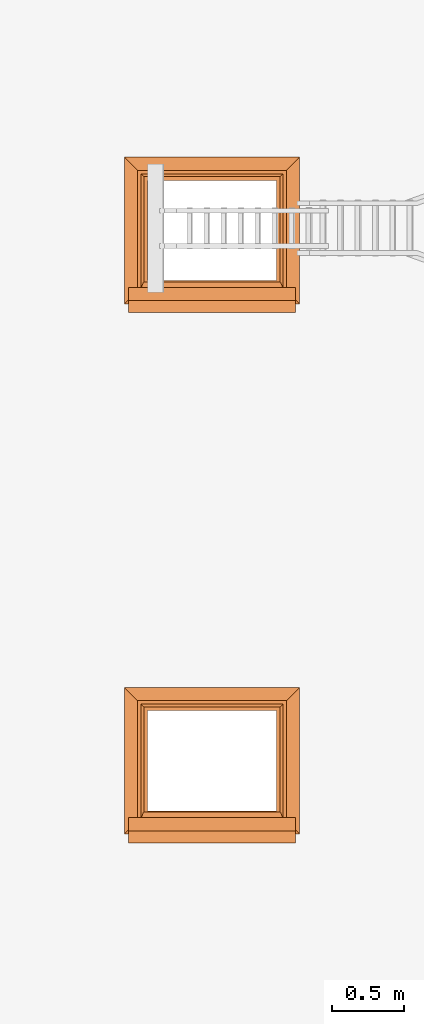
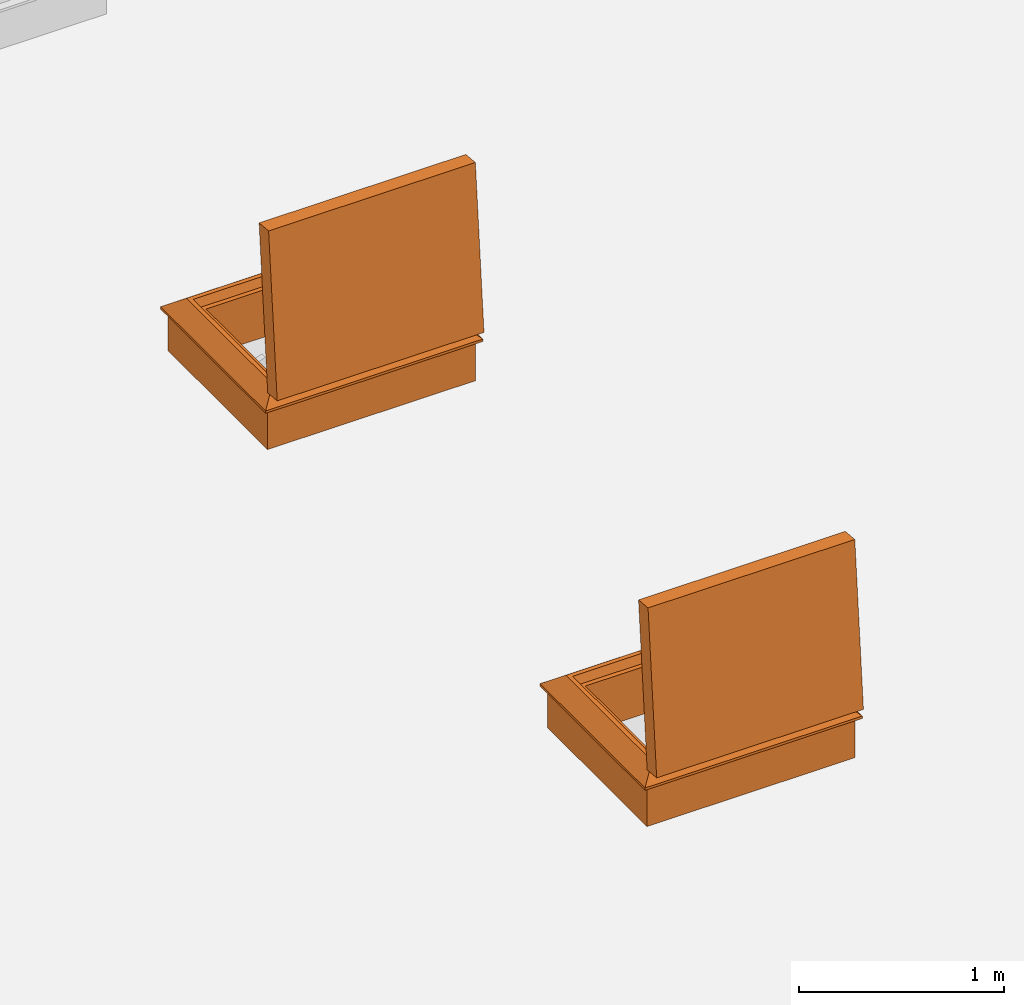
# One storey, part 25 of 28: 2 proxies.
"""IFC2X3 building model written with IfcOpenShell, lengths in millimetres."""

from ifc_helpers import new_model, entity, si_unit, converted_unit, derived_unit, direction, frame, origin, place, context, subcontext, project, spatial, faceted_brep, source, transform, mapped, type_object, type_shapes, element, save


model = new_model("IFC2X3")

# Units and contexts
model_context = context("Model", 3, precision=0.01, world=origin(), true_north=direction((6.12303176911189e-17, 1.0)))
body_context = subcontext(model_context, "Body", "Model", "MODEL_VIEW")
ifc_project = project(units=[si_unit("LENGTHUNIT", "METRE", prefix="MILLI"), si_unit("AREAUNIT", "SQUARE_METRE"), si_unit("VOLUMEUNIT", "CUBIC_METRE"), converted_unit("PLANEANGLEUNIT", "DEGREE", entity("IfcRatioMeasure", 0.0174532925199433), si_unit("PLANEANGLEUNIT", "RADIAN"), dimensions=[0, 0, 0, 0, 0, 0, 0]), si_unit("MASSUNIT", "GRAM", prefix="KILO"), derived_unit("MASSDENSITYUNIT", [(si_unit("MASSUNIT", "GRAM", prefix="KILO"), 1), (si_unit("LENGTHUNIT", "METRE"), -3)]), si_unit("TIMEUNIT", "SECOND"), si_unit("FREQUENCYUNIT", "HERTZ"), si_unit("THERMODYNAMICTEMPERATUREUNIT", "DEGREE_CELSIUS"), derived_unit("THERMALTRANSMITTANCEUNIT", [(si_unit("MASSUNIT", "GRAM", prefix="KILO"), 1), (si_unit("THERMODYNAMICTEMPERATUREUNIT", "KELVIN"), -1), (si_unit("TIMEUNIT", "SECOND"), -3)]), derived_unit("VOLUMETRICFLOWRATEUNIT", [(si_unit("LENGTHUNIT", "METRE"), 3), (si_unit("TIMEUNIT", "SECOND"), -1)]), si_unit("ELECTRICCURRENTUNIT", "AMPERE"), si_unit("ELECTRICVOLTAGEUNIT", "VOLT"), si_unit("POWERUNIT", "WATT"), si_unit("FORCEUNIT", "NEWTON", prefix="KILO"), si_unit("ILLUMINANCEUNIT", "LUX"), si_unit("LUMINOUSFLUXUNIT", "LUMEN"), si_unit("LUMINOUSINTENSITYUNIT", "CANDELA"), derived_unit("USERDEFINED", [(si_unit("MASSUNIT", "GRAM", prefix="KILO"), -1), (si_unit("LENGTHUNIT", "METRE"), -2), (si_unit("TIMEUNIT", "SECOND"), 3), (si_unit("LUMINOUSFLUXUNIT", "LUMEN"), 1)]), derived_unit("LINEARVELOCITYUNIT", [(si_unit("LENGTHUNIT", "METRE"), 1), (si_unit("TIMEUNIT", "SECOND"), -1)]), si_unit("PRESSUREUNIT", "PASCAL"), derived_unit("USERDEFINED", [(si_unit("LENGTHUNIT", "METRE"), -2), (si_unit("MASSUNIT", "GRAM", prefix="KILO"), 1), (si_unit("TIMEUNIT", "SECOND"), -2)])], contexts=[model_context])

# Site, building, storey
site_placement = place(None, origin())
site = spatial("IfcSite", under=ifc_project, at=site_placement, Name="Default", CompositionType="ELEMENT")
building_placement = place(site_placement, origin())
building = spatial("IfcBuilding", under=site, at=building_placement, CompositionType="ELEMENT")
storey_placement = place(building_placement, frame((0.0, 0.0, 4000.0)))
storey = spatial("IfcBuildingStorey", under=building, at=storey_placement, Name="Level 2", CompositionType="ELEMENT", Elevation=4000.0)

# Proxies
building_element_proxy_type_1 = type_object("IfcBuildingElementProxyType", Name="900 x 700 2part Stair", PredefinedType="NOTDEFINED")
shared_shape_1 = source(origin(), body_context, "Body", "Brep", [
    faceted_brep([(-1031.26976233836, -354.358761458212, 273.75531442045), (-1031.26976233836, -365.864908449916, 288.137998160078), (-1031.26976233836, -367.20140657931, 290.920914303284), (-1031.26976233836, -367.181926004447, 294.008060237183), (-1031.26976233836, -349.922619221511, 336.726343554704), (-1031.26976233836, -349.533801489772, 337.426363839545), (-1031.26976233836, -348.986173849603, 338.010582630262), (-1031.26976233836, -348.312728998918, 338.443802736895), (-1031.26976233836, -347.554039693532, 338.699924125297), (-1031.26976233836, -346.75581437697, 338.763516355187), (-1031.26976233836, -345.966143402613, 338.630748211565), (-1031.26976233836, -345.232601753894, 338.309618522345), (-1031.26976233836, -344.599382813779, 337.819474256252), (-1031.26976233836, -344.104635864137, 337.189844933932), (-1031.26976233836, -343.778167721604, 336.458663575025), (-1031.26976233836, -343.639646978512, 335.66998136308), (-1031.26976233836, -343.697419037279, 334.87131371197), (-1031.26976233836, -343.948003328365, 334.110777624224), (-1031.26976233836, -344.376303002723, 333.434192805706), (-1031.26976233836, -344.364435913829, 329.878928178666), (-1031.26976233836, -341.783092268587, 327.434196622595), (-1031.26976233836, -304.474443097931, 313.662769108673), (-997.506920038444, -354.358761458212, 273.75531442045), (-997.506920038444, -365.864908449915, 288.137998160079), (-997.506920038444, -367.20140657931, 290.920914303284), (-997.506920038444, -367.181926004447, 294.008060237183), (-997.506920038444, -349.922619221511, 336.726343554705), (-997.506920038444, -349.533801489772, 337.426363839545), (-997.506920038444, -348.986173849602, 338.010582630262), (-997.506920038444, -347.554039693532, 338.699924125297), (-997.506920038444, -346.75581437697, 338.763516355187), (-997.506920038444, -348.312728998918, 338.443802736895), (-997.506920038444, -345.966143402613, 338.630748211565), (-997.506920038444, -345.232601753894, 338.309618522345), (-997.506920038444, -344.104635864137, 337.189844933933), (-997.506920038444, -344.599382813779, 337.819474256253), (-997.506920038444, -343.778167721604, 336.458663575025), (-997.506920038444, -343.697419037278, 334.87131371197), (-997.506920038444, -343.948003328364, 334.110777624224), (-997.506920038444, -343.639646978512, 335.669981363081), (-997.506920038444, -344.376303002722, 333.434192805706), (-997.506920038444, -344.36443591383, 329.878928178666), (-997.506920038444, -341.783092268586, 327.434196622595), (-997.506920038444, -304.474443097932, 313.662769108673)], [[[0, 1, 2, 3, 4, 5, 6, 7, 8, 9, 10, 11, 12, 13, 14, 15, 16, 17, 18, 19, 20, 21]], [[1, 0, 22, 23]], [[1, 23, 24, 2]], [[24, 25, 3, 2]], [[4, 3, 25, 26]], [[27, 5, 4, 26]], [[28, 6, 5, 27]], [[29, 30, 9, 8]], [[8, 7, 31, 29]], [[31, 7, 6, 28]], [[32, 10, 9, 30]], [[11, 10, 32, 33]], [[34, 13, 12, 35]], [[36, 14, 13, 34]], [[37, 38, 17, 16]], [[16, 15, 39, 37]], [[39, 15, 14, 36]], [[40, 18, 17, 38]], [[12, 11, 33, 35]], [[40, 41, 19, 18]], [[42, 20, 19, 41]], [[21, 20, 42, 43]], [[0, 21, 43, 22]], [[22, 43, 42, 41, 40, 38, 37, 39, 36, 34, 35, 33, 32, 30, 29, 31, 28, 27, 26, 25, 24, 23]]]),
    faceted_brep([(-162.921907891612, -354.358761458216, 273.75531442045), (-162.921907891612, -304.474443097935, 313.662769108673), (-131.269762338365, -304.474443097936, 313.662769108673), (-131.269762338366, -354.358761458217, 273.75531442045), (-162.921907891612, -341.783092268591, 327.434196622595), (-131.269762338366, -341.783092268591, 327.434196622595), (-131.269762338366, -344.376303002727, 333.434192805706), (-131.269762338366, -344.364435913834, 329.878928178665), (-162.921907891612, -344.364435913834, 329.878928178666), (-162.921907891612, -344.376303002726, 333.434192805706), (-131.269762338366, -349.533801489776, 337.426363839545), (-162.921907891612, -349.533801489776, 337.426363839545), (-162.921907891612, -349.922619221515, 336.726343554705), (-131.269762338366, -349.922619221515, 336.726343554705), (-131.269762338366, -348.986173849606, 338.010582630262), (-162.921907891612, -348.986173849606, 338.010582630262), (-162.921907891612, -347.554039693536, 338.699924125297), (-162.921907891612, -348.312728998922, 338.443802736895), (-131.269762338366, -348.312728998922, 338.443802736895), (-131.269762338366, -347.554039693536, 338.699924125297), (-131.269762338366, -346.755814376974, 338.763516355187), (-162.921907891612, -346.755814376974, 338.763516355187), (-131.269762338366, -345.966143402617, 338.630748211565), (-162.921907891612, -345.966143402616, 338.630748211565), (-131.269762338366, -345.232601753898, 338.309618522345), (-162.921907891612, -345.232601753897, 338.309618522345), (-131.269762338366, -344.599382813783, 337.819474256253), (-162.921907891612, -344.599382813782, 337.819474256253), (-131.269762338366, -344.104635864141, 337.189844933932), (-162.921907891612, -344.104635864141, 337.189844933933), (-162.921907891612, -343.639646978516, 335.669981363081), (-162.921907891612, -343.778167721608, 336.458663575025), (-131.269762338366, -343.778167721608, 336.458663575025), (-131.269762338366, -343.639646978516, 335.66998136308), (-131.269762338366, -343.697419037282, 334.87131371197), (-162.921907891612, -343.697419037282, 334.87131371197), (-131.269762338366, -343.948003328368, 334.110777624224), (-162.921907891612, -343.948003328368, 334.110777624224), (-162.921907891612, -367.181926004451, 294.008060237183), (-131.269762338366, -367.181926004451, 294.008060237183), (-162.921907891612, -365.864908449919, 288.137998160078), (-131.269762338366, -365.86490844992, 288.137998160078), (-131.269762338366, -367.201406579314, 290.920914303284), (-162.921907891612, -367.201406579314, 290.920914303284)], [[[0, 1, 2, 3]], [[1, 4, 5, 2]], [[6, 7, 8, 9]], [[5, 4, 8, 7]], [[10, 11, 12, 13]], [[14, 15, 11, 10]], [[16, 17, 18, 19]], [[19, 20, 21, 16]], [[14, 18, 17, 15]], [[22, 23, 21, 20]], [[23, 22, 24, 25]], [[26, 27, 25, 24]], [[28, 29, 27, 26]], [[30, 31, 32, 33]], [[33, 34, 35, 30]], [[28, 32, 31, 29]], [[36, 37, 35, 34]], [[9, 37, 36, 6]], [[12, 38, 39, 13]], [[40, 41, 42, 43]], [[42, 39, 38, 43]], [[40, 0, 3, 41]], [[19, 18, 14, 10, 13, 39, 42, 41, 3, 2, 5, 7, 6, 36, 34, 33, 32, 28, 26, 24, 22, 20]], [[35, 37, 9, 8, 4, 1, 0, 40, 43, 38, 12, 11, 15, 17, 16, 21, 23, 25, 27, 29, 31, 30]]]),
    faceted_brep([(-61.2697623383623, 553.447095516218, 328.0), (30.7302376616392, 645.447095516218, 254.400000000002), (-1193.26976233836, 645.447095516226, 254.400000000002), (-1101.26976233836, 553.447095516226, 328.0), (-105.269762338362, 509.447095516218, 282.0), (-85.7439207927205, 528.97293706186, 328.0), (-1076.795603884, 528.972937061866, 328.0), (-1057.26976233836, 509.447095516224, 282.0), (-131.269762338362, 483.44709551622, 0.0), (-131.269762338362, 483.44709551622, 282.0), (-1031.26976233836, 483.447095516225, 282.0), (-1031.26976233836, 483.447095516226, 0.0), (4.73023766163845, 619.447095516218, 240.0), (4.73023766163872, 619.447095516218, 0.0), (-1167.26976233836, 619.447095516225, 0.0), (-1167.26976233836, 619.447095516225, 240.0), (30.7302376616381, 645.447095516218, 240.0), (-1193.26976233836, 645.447095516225, 240.0), (-1193.26976233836, -378.552904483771, 254.400000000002), (-1101.26976233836, -286.55290448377, 328.0), (-1076.795603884, -262.078746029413, 328.0), (-1057.26976233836, -242.552904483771, 282.0), (-1031.26976233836, -216.552904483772, 282.0), (-1031.26976233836, -216.552904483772, 0.0), (-1167.26976233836, -352.55290448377, 0.0), (-1167.26976233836, -352.55290448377, 240.0), (-1193.26976233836, -378.552904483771, 240.0), (30.7302376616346, -378.552904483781, 254.400000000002), (-61.2697623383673, -286.552904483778, 328.0), (-85.7439207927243, -262.07874602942, 328.0), (-105.269762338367, -242.552904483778, 282.0), (-131.269762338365, -216.552904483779, 282.0), (-131.269762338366, -216.55290448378, 0.0), (4.73023766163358, -352.552904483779, 0.0), (4.73023766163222, -352.552904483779, 240.0), (30.7302376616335, -378.55290448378, 240.0)], [[[0, 1, 2, 3]], [[4, 5, 6, 7]], [[8, 9, 10, 11]], [[12, 13, 14, 15]], [[1, 16, 17, 2]], [[3, 2, 18, 19]], [[7, 6, 20, 21]], [[11, 10, 22, 23]], [[15, 14, 24, 25]], [[2, 17, 26, 18]], [[19, 18, 27, 28]], [[21, 20, 29, 30]], [[23, 22, 31, 32]], [[25, 24, 33, 34]], [[18, 26, 35, 27]], [[28, 27, 1, 0]], [[3, 19, 28, 0], [5, 29, 20, 6]], [[30, 29, 5, 4]], [[7, 21, 30, 4], [9, 31, 22, 10]], [[32, 31, 9, 8]], [[11, 23, 32, 8], [13, 33, 24, 14]], [[34, 33, 13, 12]], [[15, 25, 34, 12], [16, 35, 26, 17]], [[27, 35, 16, 1]]], outer=[[True], [True], [True], [True], [True], [True], [True], [True], [True], [True], [True], [True], [True], [True], [True], [True], [True, False], [True], [True, False], [True], [False, True], [True], [False, True], [True]]),
    faceted_brep([(-1034.26693391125, -367.286388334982, 1173.32805698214), (-1034.26693391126, -428.81834271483, 470.014600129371), (-128.266933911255, -428.81834271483, 470.014600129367), (-128.266933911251, -367.286388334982, 1173.32805698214), (-1034.26693391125, -228.416847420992, 1161.17854644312), (-128.266933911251, -228.416847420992, 1161.17854644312), (-128.266933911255, -289.94880180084, 457.865089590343), (-1034.26693391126, -289.94880180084, 457.865089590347)], [[[0, 1, 2, 3]], [[4, 5, 6, 7]], [[1, 0, 4, 7]], [[2, 1, 7, 6]], [[3, 2, 6, 5]], [[0, 3, 5, 4]]]),
    faceted_brep([(-128.266933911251, -228.416847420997, 1161.17854644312), (-128.266933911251, -367.286388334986, 1173.32805698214), (-1034.26693391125, -367.286388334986, 1173.32805698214), (-1034.26693391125, -228.416847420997, 1161.17854644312), (-85.2669339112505, -270.892584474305, 1208.05894492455), (-102.86693391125, -226.203091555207, 1186.48189177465), (-1059.66693391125, -226.203091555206, 1186.48189177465), (-1077.26693391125, -270.892584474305, 1208.05894492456), (0.733066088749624, -356.043297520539, 1301.83717303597), (0.733066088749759, -263.397190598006, 1293.73168896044), (-1163.26693391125, -263.397190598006, 1293.73168896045), (-1163.26693391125, -356.043297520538, 1301.83717303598), (-1034.26693391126, -428.818342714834, 470.014600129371), (-1034.26693391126, -289.948801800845, 457.865089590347), (-1059.66693391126, -292.162557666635, 432.561744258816), (-1077.26693391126, -339.919932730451, 419.072744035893), (-1163.26693391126, -347.41532660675, 333.400000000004), (-1163.26693391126, -440.061433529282, 341.505484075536), (-128.266933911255, -428.818342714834, 470.014600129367), (-128.266933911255, -289.948801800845, 457.865089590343), (-102.866933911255, -292.162557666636, 432.561744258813), (-85.2669339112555, -339.919932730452, 419.072744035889), (0.733066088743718, -347.41532660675, 333.399999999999), (0.733066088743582, -440.061433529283, 341.505484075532)], [[[0, 1, 2, 3]], [[4, 5, 6, 7]], [[8, 9, 10, 11]], [[3, 2, 12, 13]], [[7, 6, 14, 15]], [[11, 10, 16, 17]], [[13, 12, 18, 19]], [[15, 14, 20, 21]], [[17, 16, 22, 23]], [[19, 18, 1, 0]], [[3, 13, 19, 0], [5, 20, 14, 6]], [[21, 20, 5, 4]], [[7, 15, 21, 4], [9, 22, 16, 10]], [[23, 22, 9, 8]], [[1, 18, 12, 2], [11, 17, 23, 8]]], outer=[[True], [True], [True], [True], [True], [True], [True], [True], [True], [True], [False, True], [True], [False, True], [True], [False, True]]),
])
type_shapes(building_element_proxy_type_1, [shared_shape_1])
proxy_1_placement = place(storey_placement, frame((13947.8893775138, 5640.33582063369, 400.0)))
element("IfcBuildingElementProxy", 1, at=proxy_1_placement, inside=storey, type_object=building_element_proxy_type_1, Name="1_Topaccess_dakluik_900x700_Staka:900 x 700 2part Stair", ObjectType="900 x 700 2part Stair", context=body_context, shape_type="MappedRepresentation", body=[
    mapped(shared_shape_1, transform((0.0, 0.0, 0.0), scale=1.0)),
])
building_element_proxy_type_2 = type_object("IfcBuildingElementProxyType", Name="900 x 700", PredefinedType="NOTDEFINED")
shared_shape_2 = source(origin(), body_context, "Body", "Brep", [
    faceted_brep([(-1031.26976233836, -354.358761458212, 273.75531442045), (-1031.26976233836, -365.864908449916, 288.137998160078), (-1031.26976233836, -367.20140657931, 290.920914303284), (-1031.26976233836, -367.181926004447, 294.008060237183), (-1031.26976233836, -349.922619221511, 336.726343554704), (-1031.26976233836, -349.533801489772, 337.426363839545), (-1031.26976233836, -348.986173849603, 338.010582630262), (-1031.26976233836, -348.312728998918, 338.443802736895), (-1031.26976233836, -347.554039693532, 338.699924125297), (-1031.26976233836, -346.75581437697, 338.763516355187), (-1031.26976233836, -345.966143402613, 338.630748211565), (-1031.26976233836, -345.232601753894, 338.309618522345), (-1031.26976233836, -344.599382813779, 337.819474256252), (-1031.26976233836, -344.104635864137, 337.189844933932), (-1031.26976233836, -343.778167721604, 336.458663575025), (-1031.26976233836, -343.639646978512, 335.66998136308), (-1031.26976233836, -343.697419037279, 334.87131371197), (-1031.26976233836, -343.948003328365, 334.110777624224), (-1031.26976233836, -344.376303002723, 333.434192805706), (-1031.26976233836, -344.364435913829, 329.878928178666), (-1031.26976233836, -341.783092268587, 327.434196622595), (-1031.26976233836, -304.474443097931, 313.662769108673), (-997.506920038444, -354.358761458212, 273.75531442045), (-997.506920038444, -365.864908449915, 288.137998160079), (-997.506920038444, -367.20140657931, 290.920914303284), (-997.506920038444, -367.181926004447, 294.008060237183), (-997.506920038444, -349.922619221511, 336.726343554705), (-997.506920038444, -349.533801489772, 337.426363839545), (-997.506920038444, -348.986173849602, 338.010582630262), (-997.506920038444, -347.554039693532, 338.699924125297), (-997.506920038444, -346.75581437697, 338.763516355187), (-997.506920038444, -348.312728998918, 338.443802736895), (-997.506920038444, -345.966143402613, 338.630748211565), (-997.506920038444, -345.232601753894, 338.309618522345), (-997.506920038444, -344.104635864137, 337.189844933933), (-997.506920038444, -344.599382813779, 337.819474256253), (-997.506920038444, -343.778167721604, 336.458663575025), (-997.506920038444, -343.697419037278, 334.87131371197), (-997.506920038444, -343.948003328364, 334.110777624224), (-997.506920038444, -343.639646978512, 335.669981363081), (-997.506920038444, -344.376303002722, 333.434192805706), (-997.506920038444, -344.36443591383, 329.878928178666), (-997.506920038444, -341.783092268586, 327.434196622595), (-997.506920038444, -304.474443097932, 313.662769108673)], [[[0, 1, 2, 3, 4, 5, 6, 7, 8, 9, 10, 11, 12, 13, 14, 15, 16, 17, 18, 19, 20, 21]], [[1, 0, 22, 23]], [[1, 23, 24, 2]], [[24, 25, 3, 2]], [[4, 3, 25, 26]], [[27, 5, 4, 26]], [[28, 6, 5, 27]], [[29, 30, 9, 8]], [[8, 7, 31, 29]], [[31, 7, 6, 28]], [[32, 10, 9, 30]], [[11, 10, 32, 33]], [[34, 13, 12, 35]], [[36, 14, 13, 34]], [[37, 38, 17, 16]], [[16, 15, 39, 37]], [[39, 15, 14, 36]], [[40, 18, 17, 38]], [[12, 11, 33, 35]], [[40, 41, 19, 18]], [[42, 20, 19, 41]], [[21, 20, 42, 43]], [[0, 21, 43, 22]], [[22, 43, 42, 41, 40, 38, 37, 39, 36, 34, 35, 33, 32, 30, 29, 31, 28, 27, 26, 25, 24, 23]]]),
    faceted_brep([(-162.921907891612, -365.864908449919, 288.137998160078), (-162.921907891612, -354.358761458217, 273.75531442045), (-131.269762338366, -354.358761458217, 273.75531442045), (-131.269762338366, -365.864908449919, 288.137998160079), (-131.269762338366, -367.201406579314, 290.920914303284), (-162.921907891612, -367.201406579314, 290.920914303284), (-131.269762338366, -367.181926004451, 294.008060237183), (-162.921907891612, -367.181926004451, 294.008060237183), (-162.921907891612, -349.922619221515, 336.726343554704), (-131.269762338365, -349.922619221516, 336.726343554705), (-131.269762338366, -349.533801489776, 337.426363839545), (-162.921907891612, -349.533801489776, 337.426363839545), (-131.269762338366, -348.986173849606, 338.010582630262), (-162.921907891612, -348.986173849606, 338.010582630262), (-162.921907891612, -347.554039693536, 338.699924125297), (-162.921907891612, -348.312728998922, 338.443802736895), (-131.269762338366, -348.312728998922, 338.443802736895), (-131.269762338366, -347.554039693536, 338.699924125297), (-131.269762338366, -346.755814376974, 338.763516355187), (-162.921907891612, -346.755814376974, 338.763516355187), (-131.269762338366, -345.966143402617, 338.630748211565), (-162.921907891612, -345.966143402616, 338.630748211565), (-131.269762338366, -345.232601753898, 338.309618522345), (-162.921907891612, -345.232601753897, 338.309618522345), (-131.269762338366, -344.599382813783, 337.819474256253), (-162.921907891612, -344.599382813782, 337.819474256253), (-131.269762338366, -344.104635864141, 337.189844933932), (-162.921907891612, -344.104635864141, 337.189844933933), (-162.921907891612, -343.639646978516, 335.669981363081), (-162.921907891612, -343.778167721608, 336.458663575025), (-131.269762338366, -343.778167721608, 336.458663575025), (-131.269762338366, -343.639646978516, 335.66998136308), (-131.269762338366, -343.697419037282, 334.87131371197), (-162.921907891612, -343.697419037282, 334.87131371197), (-131.269762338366, -343.948003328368, 334.110777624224), (-162.921907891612, -343.948003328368, 334.110777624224), (-162.921907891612, -344.376303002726, 333.434192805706), (-131.269762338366, -344.376303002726, 333.434192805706), (-131.269762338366, -344.364435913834, 329.878928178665), (-162.921907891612, -344.364435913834, 329.878928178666), (-131.269762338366, -341.78309226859, 327.434196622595), (-162.921907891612, -341.78309226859, 327.434196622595), (-162.921907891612, -304.474443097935, 313.662769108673), (-131.269762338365, -304.474443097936, 313.662769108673)], [[[0, 1, 2, 3]], [[0, 3, 4, 5]], [[4, 6, 7, 5]], [[8, 7, 6, 9]], [[10, 11, 8, 9]], [[12, 13, 11, 10]], [[14, 15, 16, 17]], [[17, 18, 19, 14]], [[12, 16, 15, 13]], [[20, 21, 19, 18]], [[21, 20, 22, 23]], [[24, 25, 23, 22]], [[26, 27, 25, 24]], [[28, 29, 30, 31]], [[31, 32, 33, 28]], [[26, 30, 29, 27]], [[34, 35, 33, 32]], [[36, 35, 34, 37]], [[37, 38, 39, 36]], [[40, 41, 39, 38]], [[42, 41, 40, 43]], [[1, 42, 43, 2]], [[17, 16, 12, 10, 9, 6, 4, 3, 2, 43, 40, 38, 37, 34, 32, 31, 30, 26, 24, 22, 20, 18]], [[33, 35, 36, 39, 41, 42, 1, 0, 5, 7, 8, 11, 13, 15, 14, 19, 21, 23, 25, 27, 29, 28]]]),
    faceted_brep([(-61.2697623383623, 553.447095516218, 328.0), (30.7302376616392, 645.447095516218, 254.400000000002), (-1193.26976233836, 645.447095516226, 254.400000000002), (-1101.26976233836, 553.447095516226, 328.0), (-105.269762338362, 509.447095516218, 282.0), (-85.7439207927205, 528.97293706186, 328.0), (-1076.795603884, 528.972937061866, 328.0), (-1057.26976233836, 509.447095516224, 282.0), (-131.269762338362, 483.44709551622, 0.0), (-131.269762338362, 483.44709551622, 282.0), (-1031.26976233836, 483.447095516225, 282.0), (-1031.26976233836, 483.447095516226, 0.0), (4.73023766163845, 619.447095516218, 240.0), (4.73023766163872, 619.447095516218, 0.0), (-1167.26976233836, 619.447095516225, 0.0), (-1167.26976233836, 619.447095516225, 240.0), (30.7302376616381, 645.447095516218, 240.0), (-1193.26976233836, 645.447095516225, 240.0), (-1193.26976233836, -378.552904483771, 254.400000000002), (-1101.26976233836, -286.55290448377, 328.0), (-1076.795603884, -262.078746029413, 328.0), (-1057.26976233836, -242.552904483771, 282.0), (-1031.26976233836, -216.552904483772, 282.0), (-1031.26976233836, -216.552904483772, 0.0), (-1167.26976233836, -352.55290448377, 0.0), (-1167.26976233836, -352.55290448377, 240.0), (-1193.26976233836, -378.552904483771, 240.0), (30.7302376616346, -378.552904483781, 254.400000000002), (-61.2697623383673, -286.552904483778, 328.0), (-85.7439207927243, -262.07874602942, 328.0), (-105.269762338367, -242.552904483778, 282.0), (-131.269762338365, -216.552904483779, 282.0), (-131.269762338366, -216.55290448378, 0.0), (4.73023766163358, -352.552904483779, 0.0), (4.73023766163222, -352.552904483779, 240.0), (30.7302376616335, -378.55290448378, 240.0)], [[[0, 1, 2, 3]], [[4, 5, 6, 7]], [[8, 9, 10, 11]], [[12, 13, 14, 15]], [[1, 16, 17, 2]], [[3, 2, 18, 19]], [[7, 6, 20, 21]], [[11, 10, 22, 23]], [[15, 14, 24, 25]], [[2, 17, 26, 18]], [[19, 18, 27, 28]], [[21, 20, 29, 30]], [[23, 22, 31, 32]], [[25, 24, 33, 34]], [[18, 26, 35, 27]], [[28, 27, 1, 0]], [[3, 19, 28, 0], [5, 29, 20, 6]], [[30, 29, 5, 4]], [[7, 21, 30, 4], [9, 31, 22, 10]], [[32, 31, 9, 8]], [[11, 23, 32, 8], [13, 33, 24, 14]], [[34, 33, 13, 12]], [[15, 25, 34, 12], [16, 35, 26, 17]], [[27, 35, 16, 1]]], outer=[[True], [True], [True], [True], [True], [True], [True], [True], [True], [True], [True], [True], [True], [True], [True], [True], [True, False], [True], [True, False], [True], [False, True], [True], [False, True], [True]]),
    faceted_brep([(-1034.26693391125, -367.286388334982, 1173.32805698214), (-1034.26693391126, -428.81834271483, 470.014600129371), (-128.266933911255, -428.81834271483, 470.014600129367), (-128.266933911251, -367.286388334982, 1173.32805698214), (-1034.26693391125, -228.416847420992, 1161.17854644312), (-128.266933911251, -228.416847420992, 1161.17854644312), (-128.266933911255, -289.94880180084, 457.865089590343), (-1034.26693391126, -289.94880180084, 457.865089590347)], [[[0, 1, 2, 3]], [[4, 5, 6, 7]], [[1, 0, 4, 7]], [[2, 1, 7, 6]], [[3, 2, 6, 5]], [[0, 3, 5, 4]]]),
    faceted_brep([(-128.266933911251, -228.416847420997, 1161.17854644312), (-128.266933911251, -367.286388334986, 1173.32805698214), (-1034.26693391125, -367.286388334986, 1173.32805698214), (-1034.26693391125, -228.416847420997, 1161.17854644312), (-85.2669339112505, -270.892584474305, 1208.05894492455), (-102.86693391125, -226.203091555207, 1186.48189177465), (-1059.66693391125, -226.203091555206, 1186.48189177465), (-1077.26693391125, -270.892584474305, 1208.05894492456), (0.733066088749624, -356.043297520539, 1301.83717303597), (0.733066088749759, -263.397190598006, 1293.73168896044), (-1163.26693391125, -263.397190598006, 1293.73168896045), (-1163.26693391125, -356.043297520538, 1301.83717303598), (-1034.26693391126, -428.818342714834, 470.014600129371), (-1034.26693391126, -289.948801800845, 457.865089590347), (-1059.66693391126, -292.162557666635, 432.561744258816), (-1077.26693391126, -339.919932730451, 419.072744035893), (-1163.26693391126, -347.41532660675, 333.400000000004), (-1163.26693391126, -440.061433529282, 341.505484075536), (-128.266933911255, -428.818342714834, 470.014600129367), (-128.266933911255, -289.948801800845, 457.865089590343), (-102.866933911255, -292.162557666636, 432.561744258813), (-85.2669339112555, -339.919932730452, 419.072744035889), (0.733066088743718, -347.41532660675, 333.399999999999), (0.733066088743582, -440.061433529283, 341.505484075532)], [[[0, 1, 2, 3]], [[4, 5, 6, 7]], [[8, 9, 10, 11]], [[3, 2, 12, 13]], [[7, 6, 14, 15]], [[11, 10, 16, 17]], [[13, 12, 18, 19]], [[15, 14, 20, 21]], [[17, 16, 22, 23]], [[19, 18, 1, 0]], [[3, 13, 19, 0], [5, 20, 14, 6]], [[21, 20, 5, 4]], [[7, 15, 21, 4], [9, 22, 16, 10]], [[23, 22, 9, 8]], [[1, 18, 12, 2], [11, 17, 23, 8]]], outer=[[True], [True], [True], [True], [True], [True], [True], [True], [True], [True], [False, True], [True], [False, True], [True], [False, True]]),
])
type_shapes(building_element_proxy_type_2, [shared_shape_2])
proxy_2_placement = place(storey_placement, frame((13947.8893775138, 1940.33582063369, 400.0)))
element("IfcBuildingElementProxy", 2, at=proxy_2_placement, inside=storey, type_object=building_element_proxy_type_2, Name="1_Topaccess_dakluik_900x700_Staka:900 x 700", ObjectType="900 x 700", context=body_context, shape_type="MappedRepresentation", body=[
    mapped(shared_shape_2, transform((0.0, 0.0, 0.0), scale=1.0)),
])

save(model, "model.ifc")
